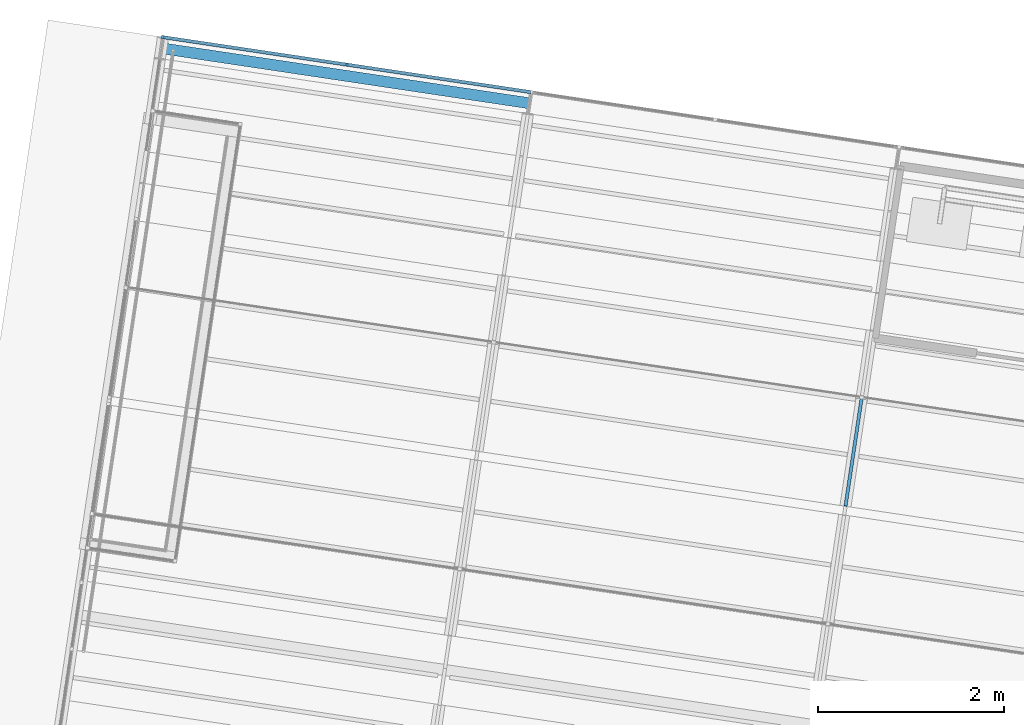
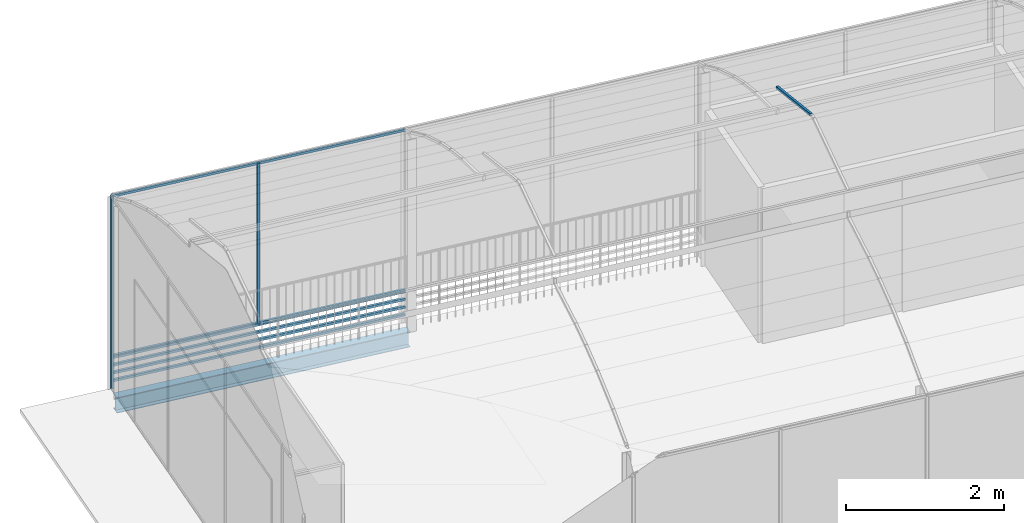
# One storey, part 8 of 34: 16 members, 1 beam, 1 element without a shape of its own.
"""IFC4 building model written with IfcOpenShell, lengths in metres."""

from ifc_helpers import new_model, si_unit, direction, frame, origin_with_axes, place, context, subcontext, project, spatial, rectangle, i_section, extrude, material, material_profile, profile_set, profile_usage, type_object, element, aggregate, save


model = new_model("IFC4")

# Units and contexts
model_context = context("Model", 3, precision=1e-05, world=origin_with_axes(), true_north=direction((0.0, 1.0)))
body_context = subcontext(model_context, "Body", "Model", "MODEL_VIEW")
ifc_project = project(units=[si_unit("VOLUMEUNIT", "CUBIC_METRE"), si_unit("LENGTHUNIT", "METRE"), si_unit("AREAUNIT", "SQUARE_METRE")], contexts=[model_context])

# Site, building, storey
site_placement = place(None, origin_with_axes())
site = spatial("IfcSite", under=ifc_project, at=site_placement, Name="Lares · Rua das Mercês · artigo 4771")
building_placement = place(site_placement, frame((12.0, 10.2, 13.9), z_axis=(0.0, 0.0, 1.0), x_axis=(0.989015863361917, -0.147809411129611, 0.0)))
building = spatial("IfcBuilding", under=site, at=building_placement, Name="Casa Sobreposta")
storey_placement = place(building_placement, frame((0.0, 0.0, 3.24), z_axis=(0.0, 0.0, 1.0), x_axis=(1.0, 0.0, 0.0)))
storey = spatial("IfcBuildingStorey", under=building, at=storey_placement, Name="01 · Jardim de inverno", Elevation=17.14)

# Beam
ifc_material_1 = material(Name="Aço pintado / Stahl lackiert", Category="steel")
ifc_material_profile_1 = material_profile(ifc_material_1, i_section(OverallWidth=0.12, OverallDepth=0.24, WebThickness=0.0062, FlangeThickness=0.0098))
ifc_profile_set_1 = profile_set([ifc_material_profile_1], Name="IPE240")
ifc_profile_usage_1 = profile_usage(ifc_profile_set_1)
beam_type = type_object("IfcBeamType", Name="IPE240 / steel", PredefinedType="NOTDEFINED", material=ifc_profile_set_1)
beam_placement = place(storey_placement, frame((0.0, 6.28, -0.152), z_axis=(1.0, 0.0, 0.0), x_axis=(0.0, -1.0, 0.0)))
element("IfcBeam", 1, at=beam_placement, inside=storey, type_object=beam_type, material=ifc_profile_usage_1, Name="Viga longitudinal 0 / 6.28", context=body_context, shape_type="SweptSolid", body=[
    extrude(i_section(OverallWidth=0.12, OverallDepth=0.24, WebThickness=0.0062, FlangeThickness=0.0098), origin_with_axes(), (0.0, 0.0, 1.0), 4.0),
])

# Members
ifc_material_profile_2 = material_profile(ifc_material_1, rectangle(XDim=0.035, YDim=0.035))
ifc_profile_set_2 = profile_set([ifc_material_profile_2], Name="R0.035")
ifc_profile_usage_2 = profile_usage(ifc_profile_set_2)
member_type = type_object("IfcMemberType", Name="R0.035 / steel", PredefinedType="NOTDEFINED", material=ifc_profile_set_2)
member_1_placement = place(storey_placement, frame((2.0, 6.4, 0.5), z_axis=(0.0, 0.0, 1.0), x_axis=(1.0, 0.0, 0.0)))
element("IfcMember", 2, at=member_1_placement, inside=storey, type_object=member_type, material=ifc_profile_usage_2, context=body_context, shape_type="SweptSolid", body=[
    extrude(rectangle(XDim=0.035, YDim=0.035), origin_with_axes(), (0.0, 0.0, 1.0), 2.48),
])
ifc_profile_usage_3 = profile_usage(ifc_profile_set_2)
member_2_placement = place(storey_placement, frame((0.0, 6.4, 0.5), z_axis=(1.0, 0.0, 0.0), x_axis=(0.0, -1.0, 0.0)))
element("IfcMember", 3, at=member_2_placement, inside=storey, type_object=member_type, material=ifc_profile_usage_3, Name="Estufa norte 1 · travessa", context=body_context, shape_type="SweptSolid", body=[
    extrude(rectangle(XDim=0.035, YDim=0.035), origin_with_axes(), (0.0, 0.0, 1.0), 2.0),
])
ifc_profile_usage_4 = profile_usage(ifc_profile_set_2)
member_3_placement = place(storey_placement, frame((0.0, 6.4, 2.98), z_axis=(1.0, 0.0, 0.0), x_axis=(0.0, -1.0, 0.0)))
element("IfcMember", 4, at=member_3_placement, inside=storey, type_object=member_type, material=ifc_profile_usage_4, Name="Estufa norte 1 · travessa", context=body_context, shape_type="SweptSolid", body=[
    extrude(rectangle(XDim=0.035, YDim=0.035), origin_with_axes(), (0.0, 0.0, 1.0), 2.0),
])
ifc_profile_usage_5 = profile_usage(ifc_profile_set_2)
member_4_placement = place(storey_placement, frame((0.0, 6.4, 0.12), z_axis=(1.0, 0.0, 0.0), x_axis=(0.0, -1.0, 0.0)))
element("IfcMember", 5, at=member_4_placement, inside=storey, type_object=member_type, material=ifc_profile_usage_5, Name="Entrada de ar norte 1", context=body_context, shape_type="SweptSolid", body=[
    extrude(rectangle(XDim=0.035, YDim=0.035), origin_with_axes(), (0.0, 0.0, 1.0), 2.0),
])
ifc_profile_usage_6 = profile_usage(ifc_profile_set_2)
member_5_placement = place(storey_placement, frame((0.0, 6.4, 0.24), z_axis=(1.0, 0.0, 0.0), x_axis=(0.0, -1.0, 0.0)))
element("IfcMember", 6, at=member_5_placement, inside=storey, type_object=member_type, material=ifc_profile_usage_6, Name="Entrada de ar norte 1", context=body_context, shape_type="SweptSolid", body=[
    extrude(rectangle(XDim=0.035, YDim=0.035), origin_with_axes(), (0.0, 0.0, 1.0), 2.0),
])
ifc_profile_usage_7 = profile_usage(ifc_profile_set_2)
member_6_placement = place(storey_placement, frame((0.0, 6.4, 0.36), z_axis=(1.0, 0.0, 0.0), x_axis=(0.0, -1.0, 0.0)))
element("IfcMember", 7, at=member_6_placement, inside=storey, type_object=member_type, material=ifc_profile_usage_7, Name="Entrada de ar norte 1", context=body_context, shape_type="SweptSolid", body=[
    extrude(rectangle(XDim=0.035, YDim=0.035), origin_with_axes(), (0.0, 0.0, 1.0), 2.0),
])
ifc_profile_usage_8 = profile_usage(ifc_profile_set_2)
member_7_placement = place(storey_placement, frame((0.0, 6.4, 0.48), z_axis=(1.0, 0.0, 0.0), x_axis=(0.0, -1.0, 0.0)))
element("IfcMember", 8, at=member_7_placement, inside=storey, type_object=member_type, material=ifc_profile_usage_8, Name="Entrada de ar norte 1", context=body_context, shape_type="SweptSolid", body=[
    extrude(rectangle(XDim=0.035, YDim=0.035), origin_with_axes(), (0.0, 0.0, 1.0), 2.0),
])
ifc_profile_usage_9 = profile_usage(ifc_profile_set_2)
member_8_placement = place(storey_placement, frame((2.0, 6.4, 0.5), z_axis=(0.0, 0.0, 1.0), x_axis=(1.0, 0.0, 0.0)))
element("IfcMember", 9, at=member_8_placement, inside=storey, type_object=member_type, material=ifc_profile_usage_9, context=body_context, shape_type="SweptSolid", body=[
    extrude(rectangle(XDim=0.035, YDim=0.035), origin_with_axes(), (0.0, 0.0, 1.0), 2.48),
])
ifc_profile_usage_10 = profile_usage(ifc_profile_set_2)
member_9_placement = place(storey_placement, frame((2.0, 6.4, 0.5), z_axis=(1.0, 0.0, 0.0), x_axis=(0.0, -1.0, 0.0)))
element("IfcMember", 10, at=member_9_placement, inside=storey, type_object=member_type, material=ifc_profile_usage_10, Name="Estufa norte 2 · travessa", context=body_context, shape_type="SweptSolid", body=[
    extrude(rectangle(XDim=0.035, YDim=0.035), origin_with_axes(), (0.0, 0.0, 1.0), 2.0),
])
ifc_profile_usage_11 = profile_usage(ifc_profile_set_2)
member_10_placement = place(storey_placement, frame((2.0, 6.4, 2.98), z_axis=(1.0, 0.0, 0.0), x_axis=(0.0, -1.0, 0.0)))
element("IfcMember", 11, at=member_10_placement, inside=storey, type_object=member_type, material=ifc_profile_usage_11, Name="Estufa norte 2 · travessa", context=body_context, shape_type="SweptSolid", body=[
    extrude(rectangle(XDim=0.035, YDim=0.035), origin_with_axes(), (0.0, 0.0, 1.0), 2.0),
])
ifc_profile_usage_12 = profile_usage(ifc_profile_set_2)
member_11_placement = place(storey_placement, frame((2.0, 6.4, 0.12), z_axis=(1.0, 0.0, 0.0), x_axis=(0.0, -1.0, 0.0)))
element("IfcMember", 12, at=member_11_placement, inside=storey, type_object=member_type, material=ifc_profile_usage_12, Name="Entrada de ar norte 2", context=body_context, shape_type="SweptSolid", body=[
    extrude(rectangle(XDim=0.035, YDim=0.035), origin_with_axes(), (0.0, 0.0, 1.0), 2.0),
])
ifc_profile_usage_13 = profile_usage(ifc_profile_set_2)
member_12_placement = place(storey_placement, frame((2.0, 6.4, 0.24), z_axis=(1.0, 0.0, 0.0), x_axis=(0.0, -1.0, 0.0)))
element("IfcMember", 13, at=member_12_placement, inside=storey, type_object=member_type, material=ifc_profile_usage_13, Name="Entrada de ar norte 2", context=body_context, shape_type="SweptSolid", body=[
    extrude(rectangle(XDim=0.035, YDim=0.035), origin_with_axes(), (0.0, 0.0, 1.0), 2.0),
])
ifc_profile_usage_14 = profile_usage(ifc_profile_set_2)
member_13_placement = place(storey_placement, frame((2.0, 6.4, 0.36), z_axis=(1.0, 0.0, 0.0), x_axis=(0.0, -1.0, 0.0)))
element("IfcMember", 14, at=member_13_placement, inside=storey, type_object=member_type, material=ifc_profile_usage_14, Name="Entrada de ar norte 2", context=body_context, shape_type="SweptSolid", body=[
    extrude(rectangle(XDim=0.035, YDim=0.035), origin_with_axes(), (0.0, 0.0, 1.0), 2.0),
])
ifc_profile_usage_15 = profile_usage(ifc_profile_set_2)
member_14_placement = place(storey_placement, frame((2.0, 6.4, 0.48), z_axis=(1.0, 0.0, 0.0), x_axis=(0.0, -1.0, 0.0)))
element("IfcMember", 15, at=member_14_placement, inside=storey, type_object=member_type, material=ifc_profile_usage_15, Name="Entrada de ar norte 2", context=body_context, shape_type="SweptSolid", body=[
    extrude(rectangle(XDim=0.035, YDim=0.035), origin_with_axes(), (0.0, 0.0, 1.0), 2.0),
])
ifc_profile_usage_16 = profile_usage(ifc_profile_set_2)
member_15_placement = place(storey_placement, frame((0.0, 6.4, 0.0), z_axis=(0.0, 0.0, 1.0), x_axis=(1.0, 0.0, 0.0)))
element("IfcMember", 16, at=member_15_placement, inside=storey, type_object=member_type, material=ifc_profile_usage_16, Name="Estufa poente 4 · montante", context=body_context, shape_type="SweptSolid", body=[
    extrude(rectangle(XDim=0.035, YDim=0.035), origin_with_axes(), (0.0, 0.0, 1.0), 2.98),
])

# Roof, member
ifc_material_2 = material(Name="Vidro / Normalglas", Category="glass")
roof_placement = place(storey_placement, frame((0.0, 0.0, -3.24), z_axis=(0.0, 0.0, 1.0), x_axis=(1.0, 0.0, 0.0)))
roof = element("IfcRoof", 17, at=roof_placement, inside=storey, material=ifc_material_2, Name="Cobertura translúcida da estufa", PredefinedType="BARREL_ROOF")
ifc_profile_usage_17 = profile_usage(ifc_profile_set_2)
member_16_placement = place(roof_placement, frame((8.0, 2.49770027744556, 7.96518238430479), z_axis=(0.0, 0.96007374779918, -0.279747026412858), x_axis=(1.0, 0.0, 0.0)))
member_16 = element("IfcMember", 18, at=member_16_placement, type_object=member_type, material=ifc_profile_usage_17, Name="Arco estufa 8/9", context=body_context, shape_type="SweptSolid", body=[
    extrude(rectangle(XDim=0.035, YDim=0.035), origin_with_axes(), (0.0, 0.0, 1.0), 1.23148937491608),
])
aggregate(roof, [member_16])

save(model, "model.ifc")
